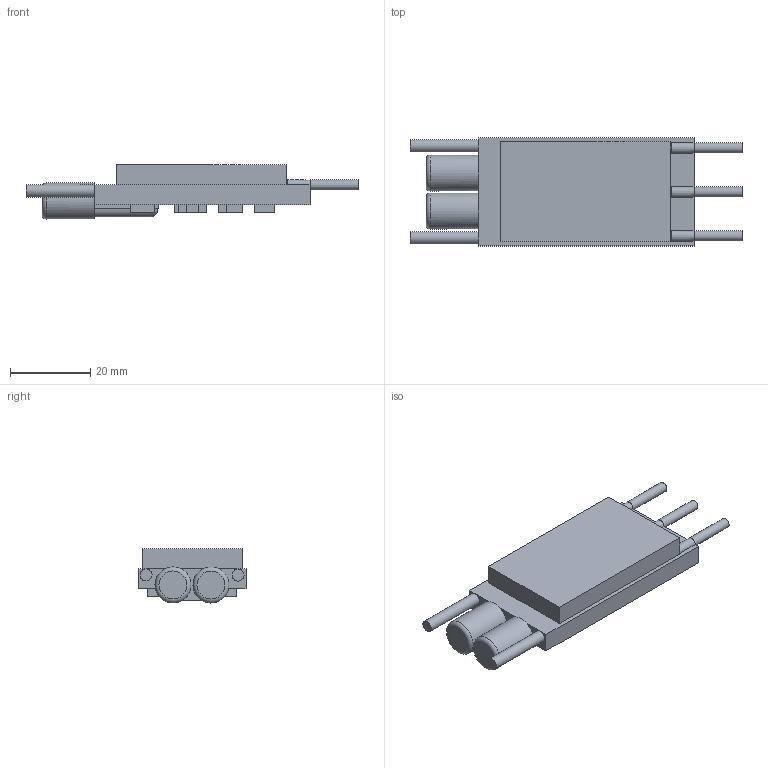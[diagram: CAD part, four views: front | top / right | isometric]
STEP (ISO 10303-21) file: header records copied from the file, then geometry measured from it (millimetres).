
FILE_DESCRIPTION(/* description */ (''),/* implementation_level */ '2;1');
FILE_NAME(/* name */ 'Hobbywing Skywalker 30A.step',/* time_stamp */ '2023-12-18T15:13:20+01:00',/* author */ (''),/* organization */ (''),/* preprocessor_version */ 'ST-DEVELOPER v20',/* originating_system */ 'Autodesk Translation Framework v12.14.0.127',/* authorisation */ '');
FILE_SCHEMA (('AUTOMOTIVE_DESIGN { 1 0 10303 214 3 1 1 }'));
Length unit declared in the file: millimetre
Products named in the file (1): Hobbywing Skywalker 30A
Bounding box: 83 x 27 x 13.5 mm (x, y, z)
Volume: 15465.4 mm3; surface area: 6193.4 mm2
Topology: 1 solids, 1 shells, 88 faces, 213 edges, 135 vertices
Faces by surface type: plane 70, cylinder 10, torus 5, cone 3
Full cylindrical faces by diameter (mm): 2.5 x3, 3 x2, 9 x2
Entity records: 2571 total; most frequent: DIRECTION 440, CARTESIAN_POINT 437, ORIENTED_EDGE 426, EDGE_CURVE 213, LINE 164, VECTOR 164, AXIS2_PLACEMENT_3D 138, VERTEX_POINT 135
